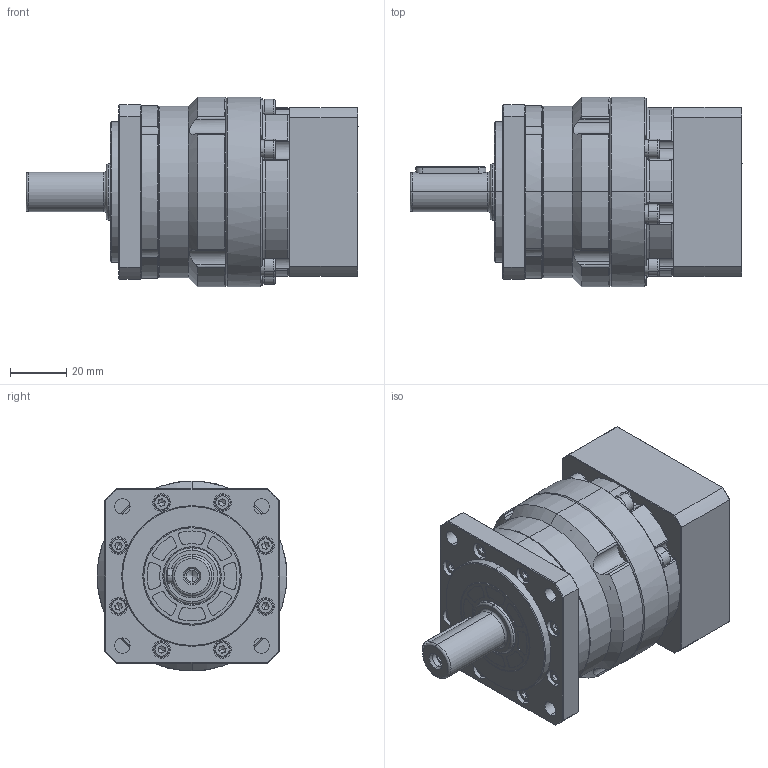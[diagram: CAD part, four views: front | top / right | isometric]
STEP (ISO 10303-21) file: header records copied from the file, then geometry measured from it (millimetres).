
FILE_DESCRIPTION (( 'STEP AP214' ), '1' );
FILE_NAME ('FB060-L1-S2-P2 14-50-70-M4.STEP', '2024-01-13T01:53:20', ( '微软用户' ), ( '微软中国' ), 'SwSTEP 2.0', 'SolidWorks 2018', '' );
FILE_SCHEMA (( 'AUTOMOTIVE_DESIGN' ));
Length unit declared in the file: millimetre
Products named in the file (16): 標杶FB060D17; spring lock washers--normal type gb_GB_FASTENER_WASHER_SW 4; 一级输出轴FB060外形图; 输入太阳轮FB060D14外形图; hex socket set screws with flat point gb_GB_FASTENER_SCREWS_HSFP M10X8-N; FB060一级齿圈外形图; 萇儂楊擘FB060-D50-M5-70F60H24.5; FB060-L1-S2-P2 14-50-70-M4; FB060方输出端盖外形图; 蚐猾20X35X5; hexagon socket head cap screws gb_GB_FASTENER_SCREWS_HSHCS M3X16-N; spring lock washers--normal type gb_GB_FASTENER_WASHER_SW 3; plain parallel keys_GB_CONNECTING_PIECE_KEYS_CSK 5X25; hexagon socket head cap screws gb_GB_FASTENER_SCREWS_HSHCS M5X16-N; hexagon socket head cap screws gb_GB_FASTENER_SCREWS_HSHCS M4X20-N; FB060笢潔楊擘俋倛芞
Assembly tree (51 placements, depth 2):
  FB060-L1-S2-P2 14-50-70-M4
    FB060一级齿圈外形图
    一级输出轴FB060外形图
    输入太阳轮FB060D14外形图
    FB060笢潔楊擘俋倛芞
    萇儂楊擘FB060-D50-M5-70F60H24.5
    標杶FB060D17
    hexagon socket head cap screws gb_GB_FASTENER_SCREWS_HSHCS M5X16-N
    hexagon socket head cap screws gb_GB_FASTENER_SCREWS_HSHCS M4X20-N  x12
    spring lock washers--normal type gb_GB_FASTENER_WASHER_SW 4  x12
    hex socket set screws with flat point gb_GB_FASTENER_SCREWS_HSFP M10X8-N
    FB060方输出端盖外形图
    蚐猾20X35X5
    plain parallel keys_GB_CONNECTING_PIECE_KEYS_CSK 5X25
    hexagon socket head cap screws gb_GB_FASTENER_SCREWS_HSHCS M3X16-N  x8
    spring lock washers--normal type gb_GB_FASTENER_WASHER_SW 3  x8
Bounding box: 118 x 67.5 x 67.5 mm (x, y, z)
Volume: 243735.2 mm3; surface area: 79702.7 mm2
Topology: 51 solids, 51 shells, 1488 faces, 3635 edges, 2257 vertices
Faces by surface type: plane 579, cylinder 553, cone 265, torus 79, bspline 12
Entity records: 36996 total; most frequent: CARTESIAN_POINT 5866, DIRECTION 4740, ORIENTED_EDGE 4230, EDGE_CURVE 2115, AXIS2_PLACEMENT_3D 1942, VERTEX_POINT 1353, CIRCLE 1042, EDGE_LOOP 984
